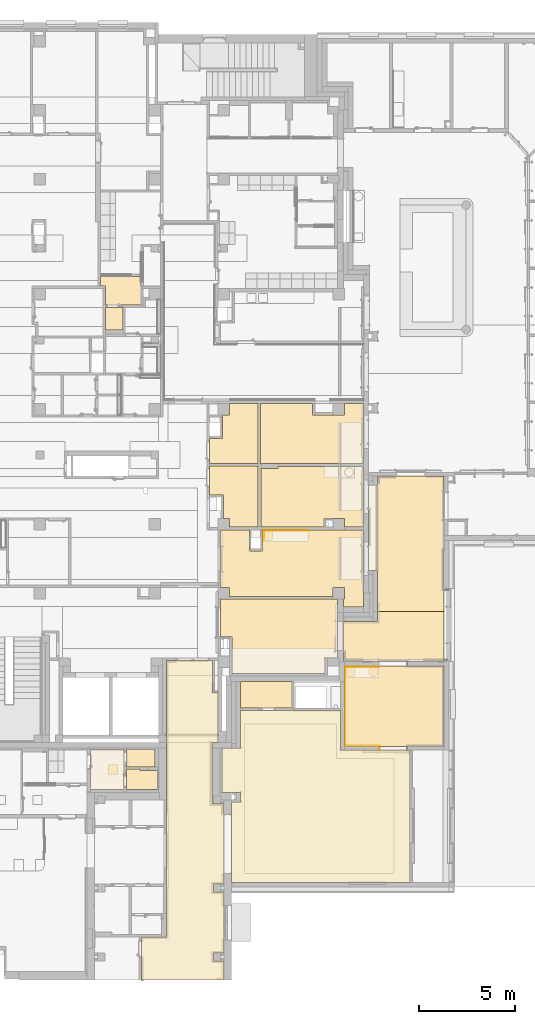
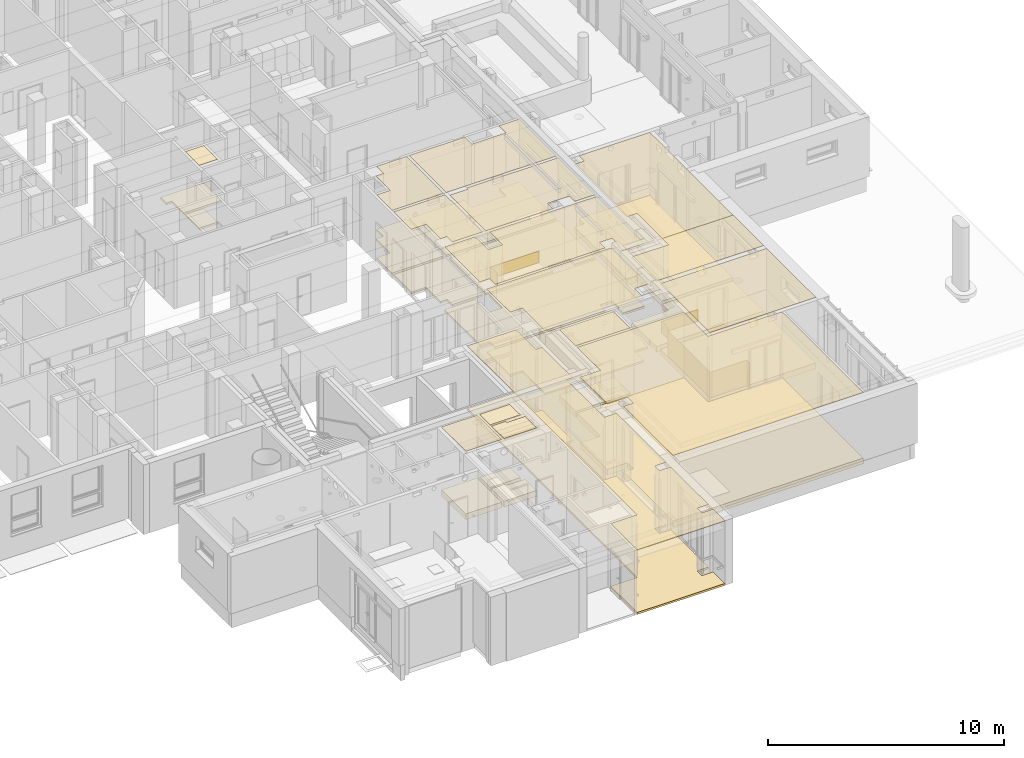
# One storey, part 129 of 140: 36 coverings.
"""IFC4 building model written with IfcOpenShell, lengths in metres."""

import ifcopenshell
import ifcopenshell.guid

model = None  # the IFC model being written
_history = None  # IfcOwnerHistory: only IFC2X3 demands one
_inside = {}  # id of a spatial element -> (the spatial element, [elements in it])
_under = {}  # id of a project, library or spatial element -> (it, [spatial elements below it])
_declared = {}  # id of a project -> (the project, [libraries it declares])
_typed = {}  # id of a type object -> (the type object, [elements of that type])
_made_of = {}  # id of a material, layer set ... -> (it, [elements and type objects made of it])


def new_model(schema):
    """Start an empty IFC model of exactly this schema.

    Asked for "IFC4X3", IfcOpenShell would pick the latest addendum, in which some entities
    have other attributes; the version numbers below select the first issue.
    IFC2X3 requires an IfcOwnerHistory on every rooted entity: one is made here for all.
    """
    global model, _history
    if schema == "IFC4X3":
        model = ifcopenshell.file(schema_version=(4, 3, 0, 0))
    else:
        model = ifcopenshell.file(schema=schema)
    _inside.clear()
    _under.clear()
    _declared.clear()
    _typed.clear()
    _made_of.clear()
    _history = None
    if model.schema == "IFC2X3":
        org = make("IfcOrganization", Name="unknown")
        user = make(
            "IfcPersonAndOrganization",
            ThePerson=make("IfcPerson", FamilyName="unknown"),
            TheOrganization=org,
        )
        app = make(
            "IfcApplication",
            ApplicationDeveloper=org,
            Version="unknown",
            ApplicationFullName="unknown",
            ApplicationIdentifier="unknown",
        )
        _history = make(
            "IfcOwnerHistory",
            OwningUser=user,
            OwningApplication=app,
            ChangeAction="ADDED",
            CreationDate=0,
        )
    return model


def make(cls, **values):
    """One entity of the class cls with the attributes given. An attribute that is None is left unset."""
    return model.create_entity(
        cls, **{name: value for name, value in values.items() if value is not None}
    )


def entity(cls, *values):
    """Any entity or typed value of the class cls, its attributes in the order of the schema. None: left unset."""
    e = model.create_entity(cls)
    for i, value in enumerate(values):
        if value is not None:
            e[i] = value
    return e


def rooted(cls, **values):
    """An entity with a GlobalId (a new one), such as an element, a storey or a relation."""
    return make(cls, GlobalId=ifcopenshell.guid.new(), OwnerHistory=_history, **values)


def si_unit(unit_type, name, prefix=None):
    """IfcSIUnit, for example si_unit("LENGTHUNIT", "METRE", prefix="MILLI")."""
    return make("IfcSIUnit", UnitType=unit_type, Prefix=prefix, Name=name)


def converted_unit(unit_type, name, factor, base, dimensions=None, offset=None):
    """IfcConversionBasedUnit, such as the inch: factor (a typed value) times the base unit."""
    return make(
        "IfcConversionBasedUnit"
        if offset is None
        else "IfcConversionBasedUnitWithOffset",
        ConversionOffset=offset,
        Dimensions=None
        if dimensions is None
        else entity("IfcDimensionalExponents", *dimensions),
        UnitType=unit_type,
        Name=name,
        ConversionFactor=make(
            "IfcMeasureWithUnit", ValueComponent=factor, UnitComponent=base
        ),
    )


def derived_unit(unit_type, elements):
    """IfcDerivedUnit: a product of units, each with its exponent."""
    return make(
        "IfcDerivedUnit",
        Elements=[
            make("IfcDerivedUnitElement", Unit=unit, Exponent=power)
            for unit, power in elements
        ],
        UnitType=unit_type,
    )


def assignment(units):
    """IfcUnitAssignment: the units of a project."""
    return None if units is None else make("IfcUnitAssignment", Units=units)


def point(xyz):
    """IfcCartesianPoint."""
    return None if xyz is None else make("IfcCartesianPoint", Coordinates=xyz)


def direction(xyz):
    """IfcDirection."""
    return None if xyz is None else make("IfcDirection", DirectionRatios=xyz)


def frame(location, z_axis=None, x_axis=None):
    """IfcAxis2Placement3D, a coordinate frame: its origin and axes. An axis left out is left unset."""
    return make(
        "IfcAxis2Placement3D",
        Location=point(location),
        Axis=direction(z_axis),
        RefDirection=direction(x_axis),
    )


def frame_2d(location, x_axis=None):
    """IfcAxis2Placement2D, a coordinate frame in the plane: its origin and x axis."""
    return make(
        "IfcAxis2Placement2D", Location=point(location), RefDirection=direction(x_axis)
    )


def origin():
    """The frame at (0, 0, 0) with its axes left unset."""
    return frame((0.0, 0.0, 0.0))


def origin_with_axes():
    """The frame at (0, 0, 0) with the z axis (0, 0, 1) and the x axis (1, 0, 0) written out."""
    return frame((0.0, 0.0, 0.0), z_axis=(0.0, 0.0, 1.0), x_axis=(1.0, 0.0, 0.0))


def place(relative_to, where):
    """IfcLocalPlacement: puts the frame where relative to a parent placement (None: the world)."""
    return make(
        "IfcLocalPlacement", PlacementRelTo=relative_to, RelativePlacement=where
    )


def context(
    kind, dimensions, precision=None, world=None, true_north=None, identifier=None
):
    """IfcGeometricRepresentationContext, for example the 3D "Model" context."""
    return make(
        "IfcGeometricRepresentationContext",
        ContextIdentifier=identifier,
        ContextType=kind,
        CoordinateSpaceDimension=dimensions,
        Precision=precision,
        WorldCoordinateSystem=world,
        TrueNorth=true_north,
    )


def subcontext(parent, identifier, kind, view, scale=None):
    """IfcGeometricRepresentationSubContext, for example "Body" below "Model"."""
    return make(
        "IfcGeometricRepresentationSubContext",
        ContextIdentifier=identifier,
        ContextType=kind,
        ParentContext=parent,
        TargetScale=scale,
        TargetView=view,
    )


def project(units=None, contexts=None):
    """IfcProject with its units and contexts."""
    return rooted(
        "IfcProject",
        Name="project",
        RepresentationContexts=contexts,
        UnitsInContext=assignment(units),
    )


def spatial(cls, under=None, at=None, **own):
    """A site, building, storey or space (cls), placed at a placement, below another one or the project."""
    s = rooted(cls, ObjectPlacement=at, **own)
    if under is not None:
        _under.setdefault(under.id(), (under, []))[1].append(s)
    return s


def polyline(points):
    """IfcPolyline through the points."""
    return make("IfcPolyline", Points=[point(p) for p in points])


def profile(cls, at=None, kind="AREA", **sizes):
    """A parametric profile (cls). Its sizes go by their IFC names, for example OverallWidth=200.0."""
    return make(cls, ProfileType=kind, Position=at, **sizes)


def rectangle(**sizes):
    """IfcRectangleProfileDef."""
    return profile("IfcRectangleProfileDef", **sizes)


def outline(outer, holes=None, kind="AREA"):
    """IfcArbitraryClosedProfileDef: a profile drawn as a closed curve; with holes, ...WithVoids."""
    if holes is None:
        return make("IfcArbitraryClosedProfileDef", ProfileType=kind, OuterCurve=outer)
    return make(
        "IfcArbitraryProfileDefWithVoids",
        ProfileType=kind,
        OuterCurve=outer,
        InnerCurves=holes,
    )


def extrude(swept, where, along, depth):
    """IfcExtrudedAreaSolid: the profile swept, set in the frame where, extruded along a direction by depth."""
    return make(
        "IfcExtrudedAreaSolid",
        SweptArea=swept,
        Position=where,
        ExtrudedDirection=direction(along),
        Depth=depth,
    )


def shape(context_of_items, identifier, shape_type, items):
    """IfcShapeRepresentation: the items that make up one representation, for example the "Body"."""
    return make(
        "IfcShapeRepresentation",
        ContextOfItems=context_of_items,
        RepresentationIdentifier=identifier,
        RepresentationType=shape_type,
        Items=items,
    )


def material(Name=None, Category=None):
    """IfcMaterial."""
    return make("IfcMaterial", Name=Name, Category=Category)


def layer(
    of_material, thickness, ventilated=None, Name=None, Category=None, Priority=None
):
    """IfcMaterialLayer: one layer of a wall or slab, of a material (None: an air gap)."""
    return make(
        "IfcMaterialLayer",
        Material=of_material,
        LayerThickness=thickness,
        IsVentilated=ventilated,
        Name=Name,
        Category=Category,
        Priority=Priority,
    )


def layer_set(layers, Name=None):
    """IfcMaterialLayerSet."""
    return make("IfcMaterialLayerSet", MaterialLayers=layers, LayerSetName=Name)


def layer_usage(for_layer_set, set_direction, sense, offset, extent=None):
    """IfcMaterialLayerSetUsage: how a layer set lies in its element."""
    return make(
        "IfcMaterialLayerSetUsage",
        ForLayerSet=for_layer_set,
        LayerSetDirection=set_direction,
        DirectionSense=sense,
        OffsetFromReferenceLine=offset,
        ReferenceExtent=extent,
    )


def made_of(thing, what):
    """Note that an element or type object is made of a material, layer set ...; save() writes the relation."""
    if what is not None:
        _made_of.setdefault(what.id(), (what, []))[1].append(thing)
    return thing


def element(
    cls,
    number,
    at=None,
    inside=None,
    cuts=None,
    type_object=None,
    material=None,
    context=None,
    identifier="Body",
    shape_type=None,
    held_by="IfcProductDefinitionShape",
    body=None,
    shapes=None,
    **own,
):
    """One element of the class cls, such as IfcWall. Its Tag is "e" and its number.

    at: its placement. inside: the storey or other place that contains it. cuts: it is an
    opening in that element (IfcRelVoidsElement). A single representation is given by context,
    identifier, shape_type and body (its items); several are given by shapes. held_by: the class
    of the entity that holds the representations. save() writes the other relations.
    """
    e = rooted(cls, Tag="e%d" % number, ObjectPlacement=at, **own)
    if body is not None:
        shapes = [shape(context, identifier, shape_type, body)]
    if shapes is not None:
        e.Representation = make(held_by, Representations=shapes)
    if inside is not None:
        _inside.setdefault(inside.id(), (inside, []))[1].append(e)
    if cuts is not None:
        rooted(
            "IfcRelVoidsElement", RelatingBuildingElement=cuts, RelatedOpeningElement=e
        )
    if type_object is not None:
        _typed.setdefault(type_object.id(), (type_object, []))[1].append(e)
    return made_of(e, material)


def aggregate(whole, parts):
    """IfcRelAggregates: a whole, such as a stair, and the parts it consists of."""
    return rooted("IfcRelAggregates", RelatingObject=whole, RelatedObjects=parts)


def save(model, path):
    """Write the relations noted so far, then the file.

    IfcRelAggregates (storeys below a building ...), IfcRelContainedInSpatialStructure (elements
    in a storey), IfcRelDefinesByType, IfcRelAssociatesMaterial and IfcRelDeclares: one each for
    every whole, place, type object, material and project.
    """
    for whole, parts in _under.values():
        aggregate(whole, parts)
    for where, things in _inside.values():
        rooted(
            "IfcRelContainedInSpatialStructure",
            RelatedElements=things,
            RelatingStructure=where,
        )
    for kind, things in _typed.values():
        rooted("IfcRelDefinesByType", RelatedObjects=things, RelatingType=kind)
    for what, things in _made_of.values():
        rooted("IfcRelAssociatesMaterial", RelatedObjects=things, RelatingMaterial=what)
    for by, libraries in _declared.values():
        rooted("IfcRelDeclares", RelatingContext=by, RelatedDefinitions=libraries)
    model.write(path)


model = new_model("IFC4")

# Units and contexts
model_context = context("Model", 3, precision=1e-05, world=origin())
body_context = subcontext(model_context, "Body", "Model", "MODEL_VIEW")
ifc_project = project(units=[si_unit("LENGTHUNIT", "METRE"), si_unit("AREAUNIT", "SQUARE_METRE"), si_unit("VOLUMEUNIT", "CUBIC_METRE"), si_unit("MASSUNIT", "GRAM", prefix="KILO"), converted_unit("PLANEANGLEUNIT", "DEGREE", entity("IfcPlaneAngleMeasure", 0.0174532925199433), si_unit("PLANEANGLEUNIT", "RADIAN"), dimensions=[0, 0, 0, 0, 0, 0, 0]), derived_unit("THERMALTRANSMITTANCEUNIT", [(si_unit("POWERUNIT", "WATT"), 1), (si_unit("THERMODYNAMICTEMPERATUREUNIT", "KELVIN"), -1), (si_unit("LENGTHUNIT", "METRE"), -2)]), derived_unit("VOLUMETRICFLOWRATEUNIT", [(si_unit("LENGTHUNIT", "METRE"), 3), (converted_unit("TIMEUNIT", "hour", entity("IfcTimeMeasure", 3600.0), si_unit("TIMEUNIT", "SECOND"), dimensions=[0, 0, 1, 0, 0, 0, 0]), -1), (si_unit("LENGTHUNIT", "METRE"), -1)])], contexts=[model_context])

# Site, building, storey
site_placement = place(None, origin())
site = spatial("IfcSite", under=ifc_project, at=site_placement, Name="3. ASŘ", CompositionType="ELEMENT")
building_placement = place(site_placement, origin())
building = spatial("IfcBuilding", under=site, at=building_placement, Name="Pavilon C", CompositionType="ELEMENT")
storey_placement = place(building_placement, origin())
storey = spatial("IfcBuildingStorey", under=building, at=storey_placement, Name="Půdorys 1.NP", CompositionType="ELEMENT", Elevation=0.0)

# Coverings
ifc_material_1 = material(Name="KERAMICKÝ OBKLAD")
ifc_layer_1 = layer(ifc_material_1, 0.015)
ifc_layer_set_1 = layer_set([ifc_layer_1])
ifc_layer_usage_1 = layer_usage(ifc_layer_set_1, "AXIS3", "POSITIVE", 0.0)
covering_1_placement = place(storey_placement, frame((46.010004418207, 6.30022531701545, 0.85)))
element("IfcCovering", 1, at=covering_1_placement, inside=storey, material=ifc_layer_usage_1, PredefinedType="CLADDING", context=body_context, shape_type="SweptSolid", body=[
    extrude(rectangle(XDim=0.6, YDim=0.569774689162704, at=frame_2d((-0.284887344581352, -0.3), x_axis=(0.0, -1.0))), frame((8.39065720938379e-05, 0.0, 0.0), z_axis=(0.999999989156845, 0.00014726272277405, 5.19607976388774e-21), x_axis=(0.00014726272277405, -0.999999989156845, 0.0)), (0.0, 0.0, 1.0), 0.015),
    extrude(rectangle(XDim=0.6, YDim=2.37003967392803, at=frame_2d((-1.18501983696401, -0.3), x_axis=(0.0, -1.0))), frame((0.0, 0.569774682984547, 0.0), z_axis=(-3.83746614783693e-16, -1.0, 0.0), x_axis=(-1.0, 3.83746614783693e-16, 0.0)), (0.0, 0.0, 1.0), 0.015),
])
ifc_material_2 = material(Name="KERAMICKÝ OBKLAD")
ifc_layer_2 = layer(ifc_material_2, 0.015)
ifc_layer_set_2 = layer_set([ifc_layer_2])
ifc_layer_usage_2 = layer_usage(ifc_layer_set_2, "AXIS3", "POSITIVE", 0.0)
covering_2_placement = place(storey_placement, frame((50.28, -0.82, 0.85)))
element("IfcCovering", 2, at=covering_2_placement, inside=storey, material=ifc_layer_usage_2, PredefinedType="CLADDING", context=body_context, shape_type="SweptSolid", body=[
    extrude(rectangle(XDim=0.6, YDim=0.57, at=frame_2d((-0.285, -0.3), x_axis=(0.0, -1.0))), frame((0.0, 0.0, 0.0), z_axis=(1.0, 0.0, 0.0), x_axis=(0.0, -1.0, 0.0)), (0.0, 0.0, 1.0), 0.015),
    extrude(rectangle(XDim=0.6, YDim=1.77, at=frame_2d((-0.885, -0.3), x_axis=(0.0, -1.0))), frame((0.0, 0.57, 0.0), z_axis=(-1.28459703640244e-16, -1.0, 0.0), x_axis=(-1.0, 1.28459703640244e-16, 0.0)), (0.0, 0.0, 1.0), 0.015),
])
ifc_material_3 = material(Name="ACROVINYLOVÝ OBKLAD")
ifc_layer_3 = layer(ifc_material_3, 0.005)
ifc_layer_set_3 = layer_set([ifc_layer_3])
ifc_layer_usage_3 = layer_usage(ifc_layer_set_3, "AXIS3", "POSITIVE", 0.0)
covering_3_placement = place(storey_placement, frame((50.28, -4.6, 0.0)))
element("IfcCovering", 3, at=covering_3_placement, inside=storey, material=ifc_layer_usage_3, PredefinedType="CLADDING", context=body_context, shape_type="SweptSolid", body=[
    extrude(rectangle(XDim=1.3, YDim=0.23, at=frame_2d((-0.115, -0.65), x_axis=(0.0, -1.0))), frame((1.8, 0.0, 0.0), z_axis=(1.0, 0.0, 0.0), x_axis=(0.0, -1.0, 0.0)), (0.0, 0.0, 1.0), 0.005),
    extrude(rectangle(XDim=1.3, YDim=0.400000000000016, at=frame_2d((-0.200000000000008, -0.65), x_axis=(0.0, -1.0))), frame((0.0, 0.230000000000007, 0.0), z_axis=(1.0, 0.0, 0.0), x_axis=(0.0, -1.0, 0.0)), (0.0, 0.0, 1.0), 0.005),
    extrude(rectangle(XDim=1.3, YDim=3.14999999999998, at=frame_2d((-1.57499999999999, -0.65), x_axis=(0.0, -1.0))), frame((0.0, 0.630000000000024, 0.0), z_axis=(1.0, 0.0, 0.0), x_axis=(0.0, -1.0, 0.0)), (0.0, 0.0, 1.0), 0.005),
    extrude(rectangle(XDim=1.3, YDim=1.8, at=frame_2d((-0.9, -0.65), x_axis=(0.0, -1.0))), frame((1.8, 0.23, 0.0), z_axis=(4.04219867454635e-15, 1.0, 0.0), x_axis=(1.0, -4.04219867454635e-15, 0.0)), (0.0, 0.0, 1.0), 0.005),
])

# Space
space_1_placement = place(storey_placement, frame((39.65, -16.6, -0.1)))
space_1 = spatial("IfcSpace", under=storey, at=space_1_placement, Name="1.01", CompositionType="ELEMENT")

# Coverings
ifc_material_4 = material()
ifc_layer_4 = layer(ifc_material_4, 0.095)
ifc_material_5 = material(Name="PŘÍRODNÍ LINOLEUM")
ifc_layer_5 = layer(ifc_material_5, 0.005)
ifc_layer_set_4 = layer_set([ifc_layer_4, ifc_layer_5])
ifc_layer_usage_4 = layer_usage(ifc_layer_set_4, "AXIS3", "POSITIVE", 0.0)
covering_4_placement = place(space_1_placement, origin())
element("IfcCovering", 4, at=covering_4_placement, inside=space_1, material=ifc_layer_usage_4, PredefinedType="FLOORING", context=body_context, shape_type="SweptSolid", body=[
    extrude(outline(polyline([(3.7, 15.0), (3.7, 16.675), (1.3, 16.675), (1.3, 2.24999999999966), (0.0, 2.24999999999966), (0.0, 0.0), (4.3, 0.0), (4.3, 0.999999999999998), (3.75, 0.999999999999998), (3.75, 1.4), (4.3, 1.4), (4.3, 4.6), (3.75, 4.6), (3.75, 5.0), (4.3, 5.0), (4.3, 9.2), (3.7, 9.2), (3.7, 12.4), (3.99999999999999, 12.4), (3.99999999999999, 15.0), (3.7, 15.0)])), origin_with_axes(), (0.0, 0.0, 1.0), 0.1),
])
ifc_material_6 = material(Name="RASTR 1")
ifc_layer_6 = layer(ifc_material_6, 0.03)
ifc_layer_set_5 = layer_set([ifc_layer_6])
ifc_layer_usage_5 = layer_usage(ifc_layer_set_5, "AXIS3", "POSITIVE", 0.0)
covering_5_placement = place(space_1_placement, frame((0.0, 0.0, 3.35)))
element("IfcCovering", 5, at=covering_5_placement, inside=space_1, material=ifc_layer_usage_5, PredefinedType="CEILING", context=body_context, shape_type="SweptSolid", body=[
    extrude(outline(polyline([(3.7, 0.0), (3.7, 1.675), (3.99999999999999, 1.675), (3.99999999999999, 4.27499999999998), (3.7, 4.27499999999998), (3.7, 7.47499999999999), (4.3, 7.47499999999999), (4.3, 11.675), (3.75, 11.675), (3.75, 12.075), (4.3, 12.075), (4.3, 15.275), (3.75, 15.275), (3.75, 15.675), (4.3, 15.675), (4.3, 16.675), (0.0, 16.675), (0.0, 14.4250000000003), (1.3, 14.4250000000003), (1.3, 0.0), (3.7, 0.0)])), frame((0.0, 16.675, 0.0), z_axis=(0.0, 0.0, -1.0), x_axis=(1.0, 0.0, 0.0)), (0.0, 0.0, 1.0), 0.03),
])

# Space
space_2_placement = place(storey_placement, frame((38.875, -5.47499998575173, -0.3)))
space_2 = spatial("IfcSpace", under=storey, at=space_2_placement, Name="K1.14a", CompositionType="ELEMENT")

# Coverings
ifc_material_7 = material()
ifc_layer_7 = layer(ifc_material_7, 0.285)
ifc_material_8 = material(Name="KERAMICKÁ DLAŽBA")
ifc_layer_8 = layer(ifc_material_8, 0.015)
ifc_layer_set_6 = layer_set([ifc_layer_7, ifc_layer_8])
ifc_layer_usage_6 = layer_usage(ifc_layer_set_6, "AXIS3", "POSITIVE", 0.0)
covering_6_placement = place(space_2_placement, origin())
element("IfcCovering", 6, at=covering_6_placement, inside=space_2, material=ifc_layer_usage_6, PredefinedType="FLOORING", context=body_context, shape_type="SweptSolid", body=[
    extrude(rectangle(XDim=1.47500000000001, YDim=0.89999998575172, at=frame_2d((-0.737500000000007, -0.44999999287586), x_axis=(-1.0, 0.0))), frame((1.47500000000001, 0.89999998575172, 0.0), z_axis=(0.0, 0.0, 1.0), x_axis=(1.0, 0.0, 0.0)), (0.0, 0.0, 1.0), 0.3),
])
ifc_material_9 = material(Name="RASTR 2")
ifc_layer_9 = layer(ifc_material_9, 0.03)
ifc_layer_set_7 = layer_set([ifc_layer_9])
ifc_layer_usage_7 = layer_usage(ifc_layer_set_7, "AXIS3", "POSITIVE", 0.0)
covering_7_placement = place(space_2_placement, frame((0.0, 0.0, 3.55)))
element("IfcCovering", 7, at=covering_7_placement, inside=space_2, material=ifc_layer_usage_7, PredefinedType="CEILING", context=body_context, shape_type="SweptSolid", body=[
    extrude(rectangle(XDim=1.47500000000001, YDim=0.89999998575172, at=frame_2d((0.7375, 0.44999999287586), x_axis=(1.0, 0.0))), frame((7.27595761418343e-15, 0.89999998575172, 0.0), z_axis=(0.0, 0.0, -1.0), x_axis=(1.0, 0.0, 0.0)), (0.0, 0.0, 1.0), 0.03),
])

# Space
space_3_placement = place(storey_placement, frame((37.0, -6.65, -0.3)))
space_3 = spatial("IfcSpace", under=storey, at=space_3_placement, Name="K1.14", CompositionType="ELEMENT")

# Coverings
ifc_material_10 = material()
ifc_layer_10 = layer(ifc_material_10, 0.285)
ifc_material_11 = material(Name="KERAMICKÁ DLAŽBA")
ifc_layer_11 = layer(ifc_material_11, 0.015)
ifc_layer_set_8 = layer_set([ifc_layer_10, ifc_layer_11])
ifc_layer_usage_8 = layer_usage(ifc_layer_set_8, "AXIS3", "POSITIVE", 0.0)
covering_8_placement = place(space_3_placement, origin())
element("IfcCovering", 8, at=covering_8_placement, inside=space_3, material=ifc_layer_usage_8, PredefinedType="FLOORING", context=body_context, shape_type="SweptSolid", body=[
    extrude(rectangle(XDim=1.75, YDim=2.075, at=frame_2d((-0.875, -1.0375), x_axis=(-1.0, 0.0))), frame((1.75, 2.075, 0.0), z_axis=(0.0, 0.0, 1.0), x_axis=(1.0, 0.0, 0.0)), (0.0, 0.0, 1.0), 0.3),
])
ifc_material_12 = material(Name="RASTR 2")
ifc_layer_12 = layer(ifc_material_12, 0.03)
ifc_layer_set_9 = layer_set([ifc_layer_12])
ifc_layer_usage_9 = layer_usage(ifc_layer_set_9, "AXIS3", "POSITIVE", 0.0)
covering_9_placement = place(space_3_placement, frame((0.0, 0.0, 3.55)))
element("IfcCovering", 9, at=covering_9_placement, inside=space_3, material=ifc_layer_usage_9, PredefinedType="CEILING", context=body_context, shape_type="SweptSolid", body=[
    extrude(rectangle(XDim=1.75, YDim=2.075, at=frame_2d((0.875, 1.0375), x_axis=(1.0, 0.0))), frame((0.0, 2.075, 0.0), z_axis=(0.0, 0.0, -1.0), x_axis=(1.0, 0.0, 0.0)), (0.0, 0.0, 1.0), 0.03),
])

# Space
space_4_placement = place(storey_placement, frame((38.875, -6.65, -0.3)))
space_4 = spatial("IfcSpace", under=storey, at=space_4_placement, Name="K1.14b", CompositionType="ELEMENT")

# Coverings
ifc_material_13 = material()
ifc_layer_13 = layer(ifc_material_13, 0.285)
ifc_material_14 = material(Name="KERAMICKÁ DLAŽBA")
ifc_layer_14 = layer(ifc_material_14, 0.015)
ifc_layer_set_10 = layer_set([ifc_layer_13, ifc_layer_14])
ifc_layer_usage_10 = layer_usage(ifc_layer_set_10, "AXIS3", "POSITIVE", 0.0)
covering_10_placement = place(space_4_placement, frame((7.27595761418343e-15, 0.0, 0.0)))
element("IfcCovering", 10, at=covering_10_placement, inside=space_4, material=ifc_layer_usage_10, PredefinedType="FLOORING", context=body_context, shape_type="SweptSolid", body=[
    extrude(outline(polyline([(0.699997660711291, 1.075), (0.0, 1.075), (0.0, 0.0), (1.60000000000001, 0.0), (1.60000000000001, 0.974999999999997), (0.699997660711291, 0.974999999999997), (0.699997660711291, 1.075)])), frame((-7.27595761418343e-15, 0.0, 0.0), z_axis=(0.0, 0.0, 1.0), x_axis=(1.0, 0.0, 0.0)), (0.0, 0.0, 1.0), 0.3),
])
ifc_material_15 = material(Name="RASTR 4")
ifc_layer_15 = layer(ifc_material_15, 0.03)
ifc_layer_set_11 = layer_set([ifc_layer_15])
ifc_layer_usage_11 = layer_usage(ifc_layer_set_11, "AXIS3", "POSITIVE", 0.0)
covering_11_placement = place(space_4_placement, frame((7.27595761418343e-15, 0.0, 3.55)))
element("IfcCovering", 11, at=covering_11_placement, inside=space_4, material=ifc_layer_usage_11, PredefinedType="CEILING", context=body_context, shape_type="SweptSolid", body=[
    extrude(outline(polyline([(0.0, 0.0), (0.699997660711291, 0.0), (0.699997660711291, 0.1), (1.60000000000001, 0.1), (1.60000000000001, 1.075), (0.0, 1.075), (0.0, 0.0)])), frame((-7.27595761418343e-15, 1.075, 0.0), z_axis=(0.0, 0.0, -1.0), x_axis=(1.0, 0.0, 0.0)), (0.0, 0.0, 1.0), 0.03),
])

# Space
space_5_placement = place(storey_placement, frame((43.85, -11.5, -0.3)))
space_5 = spatial("IfcSpace", under=storey, at=space_5_placement, Name="1.01b", CompositionType="ELEMENT")

# Coverings
ifc_material_16 = material()
ifc_layer_16 = layer(ifc_material_16, 0.295)
ifc_material_17 = material(Name="PŘÍRODNÍ LINOLEUM")
ifc_layer_17 = layer(ifc_material_17, 0.005)
ifc_layer_set_12 = layer_set([ifc_layer_16, ifc_layer_17])
ifc_layer_usage_12 = layer_usage(ifc_layer_set_12, "AXIS3", "POSITIVE", 0.0)
covering_12_placement = place(space_5_placement, origin())
element("IfcCovering", 12, at=covering_12_placement, inside=space_5, material=ifc_layer_usage_12, PredefinedType="FLOORING", context=body_context, shape_type="SweptSolid", body=[
    extrude(outline(polyline([(0.5, 4.20000000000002), (0.499999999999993, 1.2732925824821e-14), (9.82999999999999, 0.0), (9.82999999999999, 6.9), (6.2, 6.90000000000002), (6.2, 8.95999999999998), (0.98, 8.95999999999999), (0.98, 7.00000000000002), (0.0, 7.00000000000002), (0.0, 4.70000000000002), (0.98, 4.70000000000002), (0.98, 4.20000000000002), (0.5, 4.20000000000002)])), origin_with_axes(), (0.0, 0.0, 1.0), 0.3),
])
ifc_material_18 = material(Name="RASTR 1/SDK PODHLED")
ifc_layer_18 = layer(ifc_material_18, 0.03)
ifc_layer_set_13 = layer_set([ifc_layer_18])
ifc_layer_usage_13 = layer_usage(ifc_layer_set_13, "AXIS3", "POSITIVE", 0.0)
covering_13_placement = place(space_5_placement, frame((0.0, 0.0, 3.7)))
element("IfcCovering", 13, at=covering_13_placement, inside=space_5, material=ifc_layer_usage_13, PredefinedType="CEILING", context=body_context, shape_type="SweptSolid", body=[
    extrude(outline(polyline([(0.499999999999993, 8.95999999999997), (0.5, 4.75999999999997), (0.98, 4.75999999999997), (0.98, 4.25999999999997), (0.0, 4.25999999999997), (0.0, 1.95999999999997), (0.98, 1.95999999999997), (0.98, 0.0), (6.2, 9.09494701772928e-16), (6.2, 2.05999999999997), (9.82999999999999, 2.05999999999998), (9.82999999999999, 8.95999999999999), (0.499999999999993, 8.95999999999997)])), frame((0.0, 8.95999999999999, 0.0), z_axis=(0.0, 0.0, -1.0), x_axis=(1.0, 0.0, 0.0)), (0.0, 0.0, 1.0), 0.03),
])

# Space
space_6_placement = place(storey_placement, frame((50.25, -4.4, -0.3)))
space_6 = spatial("IfcSpace", under=storey, at=space_6_placement, Name="1.02", CompositionType="ELEMENT")

# Coverings
ifc_material_19 = material()
ifc_layer_19 = layer(ifc_material_19, 0.295)
ifc_material_20 = material(Name="ELEKTROSTATICKÝ VINYL")
ifc_layer_20 = layer(ifc_material_20, 0.005)
ifc_layer_set_14 = layer_set([ifc_layer_19, ifc_layer_20])
ifc_layer_usage_14 = layer_usage(ifc_layer_set_14, "AXIS3", "POSITIVE", 0.0)
covering_14_placement = place(space_6_placement, origin())
element("IfcCovering", 14, at=covering_14_placement, inside=space_6, material=ifc_layer_usage_14, PredefinedType="FLOORING", context=body_context, shape_type="SweptSolid", body=[
    extrude(rectangle(XDim=4.18000000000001, YDim=5.19999999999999, at=frame_2d((2.59999999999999, -2.09000000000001), x_axis=(0.0, -1.0))), frame((0.0, 4.18000000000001, 0.0), z_axis=(0.0, 0.0, 1.0), x_axis=(1.0, 0.0, 0.0)), (0.0, 0.0, 1.0), 0.3),
])
ifc_material_21 = material(Name="RASTR 3")
ifc_layer_21 = layer(ifc_material_21, 0.03)
ifc_layer_set_15 = layer_set([ifc_layer_21])
ifc_layer_usage_15 = layer_usage(ifc_layer_set_15, "AXIS3", "POSITIVE", 0.0)
covering_15_placement = place(space_6_placement, frame((0.0, 0.0, 3.7)))
element("IfcCovering", 15, at=covering_15_placement, inside=space_6, material=ifc_layer_usage_15, PredefinedType="CEILING", context=body_context, shape_type="SweptSolid", body=[
    extrude(rectangle(XDim=4.18000000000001, YDim=5.19999999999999, at=frame_2d((2.59999999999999, -2.09000000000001), x_axis=(0.0, -1.0))), frame((0.0, 0.0, 0.0), z_axis=(0.0, 0.0, -1.0), x_axis=(1.0, 0.0, 0.0)), (0.0, 0.0, 1.0), 0.03),
])

# Space
space_7_placement = place(storey_placement, frame((51.5, 2.63, -0.15)))
space_7 = spatial("IfcSpace", under=storey, at=space_7_placement, Name="1.03", CompositionType="ELEMENT")

# Coverings
ifc_material_22 = material()
ifc_layer_22 = layer(ifc_material_22, 0.295)
ifc_material_23 = material(Name="ELEKTROSTATICKÝ VINYL")
ifc_layer_23 = layer(ifc_material_23, 0.005)
ifc_layer_set_16 = layer_set([ifc_layer_22, ifc_layer_23])
ifc_layer_usage_16 = layer_usage(ifc_layer_set_16, "AXIS3", "POSITIVE", 0.0)
covering_16_placement = place(space_7_placement, origin())
element("IfcCovering", 16, at=covering_16_placement, inside=space_7, material=ifc_layer_usage_16, Name="I.P9", PredefinedType="FLOORING", context=body_context, shape_type="SweptSolid", body=[
    extrude(outline(polyline([(3.94999999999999, 7.06999999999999), (0.48, 7.06999999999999), (0.48, 6.61999999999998), (0.0, 6.61999999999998), (0.0, 2.14499999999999), (0.48, 2.14499999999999), (0.48, 0.0), (3.94999999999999, 0.0), (3.94999999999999, 7.06999999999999)])), origin_with_axes(), (0.0, 0.0, 1.0), 0.3),
])
ifc_material_24 = material(Name="RASTR 1")
ifc_layer_24 = layer(ifc_material_24, 0.03)
ifc_layer_set_17 = layer_set([ifc_layer_24])
ifc_layer_usage_17 = layer_usage(ifc_layer_set_17, "AXIS3", "POSITIVE", 0.0)
covering_17_placement = place(space_7_placement, frame((0.0, 0.0, 3.55)))
element("IfcCovering", 17, at=covering_17_placement, inside=space_7, material=ifc_layer_usage_17, PredefinedType="CEILING", context=body_context, shape_type="SweptSolid", body=[
    extrude(outline(polyline([(0.48, 0.0), (3.94999999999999, 0.0), (3.94999999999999, 7.06999999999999), (0.48, 7.06999999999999), (0.48, 4.92499999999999), (0.0, 4.92499999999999), (0.0, 0.450000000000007), (0.48, 0.450000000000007), (0.48, 0.0)])), frame((0.0, 7.06999999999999, 0.0), z_axis=(0.0, 0.0, -1.0), x_axis=(1.0, 0.0, 0.0)), (0.0, 0.0, 1.0), 0.03),
])

# Space
space_8_placement = place(storey_placement, frame((43.775, -0.600000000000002, -0.1)))
space_8 = spatial("IfcSpace", under=storey, at=space_8_placement, Name="1.04", CompositionType="ELEMENT")

# Coverings
ifc_material_25 = material()
ifc_layer_25 = layer(ifc_material_25, 0.095)
ifc_material_26 = material(Name="PŘÍRODNÍ LINOLEUM")
ifc_layer_26 = layer(ifc_material_26, 0.005)
ifc_layer_set_18 = layer_set([ifc_layer_25, ifc_layer_26])
ifc_layer_usage_18 = layer_usage(ifc_layer_set_18, "AXIS3", "POSITIVE", 0.0)
covering_18_placement = place(space_8_placement, origin())
element("IfcCovering", 18, at=covering_18_placement, inside=space_8, material=ifc_layer_usage_18, PredefinedType="FLOORING", context=body_context, shape_type="SweptSolid", body=[
    extrude(outline(polyline([(6.105, 3.9), (0.0, 3.9), (0.0, 1.92499999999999), (0.6, 1.92499999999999), (0.6, 0.0), (5.45, 0.0), (5.45, 0.799999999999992), (6.105, 0.799999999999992), (6.105, 3.9)])), origin_with_axes(), (0.0, 0.0, 1.0), 0.1),
])
ifc_material_27 = material(Name="RASTR 1")
ifc_layer_27 = layer(ifc_material_27, 0.03)
ifc_layer_set_19 = layer_set([ifc_layer_27])
ifc_layer_usage_19 = layer_usage(ifc_layer_set_19, "AXIS3", "POSITIVE", 0.0)
covering_19_placement = place(space_8_placement, frame((0.0, 0.0, 3.35)))
element("IfcCovering", 19, at=covering_19_placement, inside=space_8, material=ifc_layer_usage_19, PredefinedType="CEILING", context=body_context, shape_type="SweptSolid", body=[
    extrude(outline(polyline([(0.0, 9.09494701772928e-16), (6.105, 0.0), (6.105, 3.1), (5.45, 3.1), (5.45, 3.9), (0.6, 3.9), (0.6, 1.975), (0.0, 1.975), (0.0, 9.09494701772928e-16)])), frame((0.0, 3.9, 0.0), z_axis=(0.0, 0.0, -1.0), x_axis=(1.0, 0.0, 0.0)), (0.0, 0.0, 1.0), 0.03),
])

# Space
space_9_placement = place(storey_placement, frame((43.775, 2.88, -0.1)))
space_9 = spatial("IfcSpace", under=storey, at=space_9_placement, Name="1.05", CompositionType="ELEMENT")

# Coverings
ifc_material_28 = material()
ifc_layer_28 = layer(ifc_material_28, 0.095)
ifc_material_29 = material(Name="ELEKTROSTATICKÝ VINYL")
ifc_layer_29 = layer(ifc_material_29, 0.005)
ifc_layer_set_20 = layer_set([ifc_layer_28, ifc_layer_29])
ifc_layer_usage_20 = layer_usage(ifc_layer_set_20, "AXIS3", "POSITIVE", 0.0)
covering_20_placement = place(space_9_placement, origin())
element("IfcCovering", 20, at=covering_20_placement, inside=space_9, material=ifc_layer_usage_20, PredefinedType="FLOORING", context=body_context, shape_type="SweptSolid", body=[
    extrude(outline(polyline([(2.20500000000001, 2.92), (1.50500000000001, 2.92), (1.50500000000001, 4.02), (0.0, 4.02), (0.0, 1.02), (0.475000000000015, 1.02), (0.475000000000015, 0.544999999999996), (5.87500000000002, 0.544999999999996), (5.87500000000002, 1.02), (6.47500000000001, 1.02), (6.47500000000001, 0.419999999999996), (6.42500000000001, 0.419999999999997), (6.42500000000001, 0.0), (7.47500000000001, 0.0), (7.47500000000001, 4.02), (2.20500000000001, 4.02), (2.20500000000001, 2.92)])), origin_with_axes(), (0.0, 0.0, 1.0), 0.1),
])
ifc_material_30 = material(Name="RASTR 3")
ifc_layer_30 = layer(ifc_material_30, 0.03)
ifc_layer_set_21 = layer_set([ifc_layer_30])
ifc_layer_usage_21 = layer_usage(ifc_layer_set_21, "AXIS3", "POSITIVE", 0.0)
covering_21_placement = place(space_9_placement, frame((0.0, 0.0, 3.35)))
element("IfcCovering", 21, at=covering_21_placement, inside=space_9, material=ifc_layer_usage_21, PredefinedType="CEILING", context=body_context, shape_type="SweptSolid", body=[
    extrude(outline(polyline([(1.50500000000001, 1.1), (2.20500000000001, 1.1), (2.20500000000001, 0.0), (7.47500000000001, 0.0), (7.47500000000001, 4.02), (6.42500000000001, 4.02), (6.42500000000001, 3.6), (6.47500000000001, 3.6), (6.47500000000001, 3.0), (5.87500000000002, 3.0), (5.87500000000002, 3.475), (0.475000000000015, 3.475), (0.475000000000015, 3.0), (0.0, 3.0), (0.0, 0.0), (1.50500000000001, 0.0), (1.50500000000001, 1.1)])), frame((0.0, 4.02, 0.0), z_axis=(0.0, 0.0, -1.0), x_axis=(1.0, 0.0, 0.0)), (0.0, 0.0, 1.0), 0.03),
])

# Space
space_10_placement = place(storey_placement, frame((45.88, 7.04999999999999, -0.1)))
space_10 = spatial("IfcSpace", under=storey, at=space_10_placement, Name="1.06", CompositionType="ELEMENT")

# Coverings
ifc_material_31 = material()
ifc_layer_31 = layer(ifc_material_31, 0.085)
ifc_material_32 = material(Name="KERAMICKÁ DLAŽBA")
ifc_layer_32 = layer(ifc_material_32, 0.015)
ifc_layer_set_22 = layer_set([ifc_layer_31, ifc_layer_32])
ifc_layer_usage_22 = layer_usage(ifc_layer_set_22, "AXIS3", "POSITIVE", 0.0)
covering_22_placement = place(space_10_placement, origin())
element("IfcCovering", 22, at=covering_22_placement, inside=space_10, material=ifc_layer_usage_22, PredefinedType="FLOORING", context=body_context, shape_type="SweptSolid", body=[
    extrude(outline(polyline([(0.9, 3.04999999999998), (0.0, 3.04999999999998), (0.0, 0.0), (3.295, 0.0), (3.295, 0.450000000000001), (4.37, 0.450000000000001), (4.37, 9.09494701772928e-16), (5.37, 9.09494701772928e-16), (5.37, 3.14999999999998), (0.9, 3.14999999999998), (0.9, 3.04999999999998)])), origin_with_axes(), (0.0, 0.0, 1.0), 0.1),
])
ifc_material_33 = material(Name="RASTR 4")
ifc_layer_33 = layer(ifc_material_33, 0.03)
ifc_layer_set_23 = layer_set([ifc_layer_33])
ifc_layer_usage_23 = layer_usage(ifc_layer_set_23, "AXIS3", "POSITIVE", 0.0)
covering_23_placement = place(space_10_placement, frame((0.0, 0.0, 3.35)))
element("IfcCovering", 23, at=covering_23_placement, inside=space_10, material=ifc_layer_usage_23, PredefinedType="CEILING", context=body_context, shape_type="SweptSolid", body=[
    extrude(outline(polyline([(0.0, 0.1), (0.9, 0.1), (0.9, 0.0), (5.37, 0.0), (5.37, 3.14999999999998), (4.37, 3.14999999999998), (4.37, 2.69999999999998), (3.295, 2.69999999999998), (3.295, 3.14999999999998), (0.0, 3.14999999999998), (0.0, 0.1)])), frame((0.0, 3.14999999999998, 0.0), z_axis=(0.0, 0.0, -1.0), x_axis=(1.0, 0.0, 0.0)), (0.0, 0.0, 1.0), 0.03),
])

# Space
space_11_placement = place(storey_placement, frame((45.855, 10.35, -0.1)))
space_11 = spatial("IfcSpace", under=storey, at=space_11_placement, Name="1.07", CompositionType="ELEMENT")

# Coverings
ifc_material_34 = material()
ifc_layer_34 = layer(ifc_material_34, 0.095)
ifc_material_35 = material(Name="PŘÍRODNÍ LINOLEUM")
ifc_layer_35 = layer(ifc_material_35, 0.005)
ifc_layer_set_24 = layer_set([ifc_layer_34, ifc_layer_35])
ifc_layer_usage_24 = layer_usage(ifc_layer_set_24, "AXIS3", "POSITIVE", 0.0)
covering_24_placement = place(space_11_placement, origin())
element("IfcCovering", 24, at=covering_24_placement, inside=space_11, material=ifc_layer_usage_24, PredefinedType="FLOORING", context=body_context, shape_type="SweptSolid", body=[
    extrude(outline(polyline([(0.0, 3.15000000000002), (0.0, 0.0), (5.395, 0.0), (5.395, 3.15000000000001), (4.395, 3.15000000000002), (4.395, 2.55000000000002), (2.72, 2.55000000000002), (2.72, 3.15000000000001), (0.0, 3.15000000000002)])), origin_with_axes(), (0.0, 0.0, 1.0), 0.1),
])
ifc_material_36 = material(Name="RASTR 2")
ifc_layer_36 = layer(ifc_material_36, 0.03)
ifc_layer_set_25 = layer_set([ifc_layer_36])
ifc_layer_usage_25 = layer_usage(ifc_layer_set_25, "AXIS3", "POSITIVE", 0.0)
covering_25_placement = place(space_11_placement, frame((0.0, 0.0, 3.35)))
element("IfcCovering", 25, at=covering_25_placement, inside=space_11, material=ifc_layer_usage_25, PredefinedType="CEILING", context=body_context, shape_type="SweptSolid", body=[
    extrude(outline(polyline([(0.0, 3.15000000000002), (0.0, 0.0), (2.72, 5.45696821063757e-15), (2.72, 0.600000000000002), (4.395, 0.600000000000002), (4.395, 1.81898940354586e-15), (5.395, 7.27595761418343e-15), (5.395, 3.15000000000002), (0.0, 3.15000000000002)])), frame((0.0, 3.15000000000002, 0.0), z_axis=(0.0, 0.0, -1.0), x_axis=(1.0, 0.0, 0.0)), (0.0, 0.0, 1.0), 0.03),
])

# Space
space_12_placement = place(storey_placement, frame((37.5, 18.625, -0.1)))
space_12 = spatial("IfcSpace", under=storey, at=space_12_placement, Name="1.26", CompositionType="ELEMENT")

# Covering
ifc_material_37 = material()
ifc_layer_37 = layer(ifc_material_37, 0.085)
ifc_material_38 = material(Name="KERAMICKÁ DLAŽBA")
ifc_layer_38 = layer(ifc_material_38, 0.015)
ifc_layer_set_26 = layer_set([ifc_layer_37, ifc_layer_38])
ifc_layer_usage_26 = layer_usage(ifc_layer_set_26, "AXIS3", "POSITIVE", 0.0)
covering_26_placement = place(space_12_placement, origin())
element("IfcCovering", 26, at=covering_26_placement, inside=space_12, material=ifc_layer_usage_26, PredefinedType="FLOORING", context=body_context, shape_type="SweptSolid", body=[
    extrude(outline(polyline([(0.0, 1.5), (0.0, 1.0), (0.275, 1.0), (0.275, 0.0), (2.125, 0.0), (2.125, 1.5), (0.0, 1.5)])), origin_with_axes(), (0.0, 0.0, 1.0), 0.1),
])

# Space
space_13_placement = place(storey_placement, frame((37.775, 17.325, -0.1)))
space_13 = spatial("IfcSpace", under=storey, at=space_13_placement, Name="1.26a", CompositionType="ELEMENT")

# Coverings
ifc_material_39 = material()
ifc_layer_39 = layer(ifc_material_39, 0.085)
ifc_material_40 = material(Name="KERAMICKÁ DLAŽBA")
ifc_layer_40 = layer(ifc_material_40, 0.015)
ifc_layer_set_27 = layer_set([ifc_layer_39, ifc_layer_40])
ifc_layer_usage_27 = layer_usage(ifc_layer_set_27, "AXIS3", "POSITIVE", 0.0)
covering_27_placement = place(space_13_placement, origin())
element("IfcCovering", 27, at=covering_27_placement, inside=space_13, material=ifc_layer_usage_27, PredefinedType="FLOORING", context=body_context, shape_type="SweptSolid", body=[
    extrude(rectangle(XDim=0.9, YDim=1.175, at=frame_2d((-0.45, -0.5875), x_axis=(-1.0, 0.0))), frame((0.9, 1.175, 0.0), z_axis=(0.0, 0.0, 1.0), x_axis=(1.0, 0.0, 0.0)), (0.0, 0.0, 1.0), 0.1),
])
ifc_material_41 = material(Name="RASTR 2")
ifc_layer_41 = layer(ifc_material_41, 0.03)
ifc_layer_set_28 = layer_set([ifc_layer_41])
ifc_layer_usage_28 = layer_usage(ifc_layer_set_28, "AXIS3", "POSITIVE", 0.0)
covering_28_placement = place(space_13_placement, frame((0.0, 0.0, 3.35)))
element("IfcCovering", 28, at=covering_28_placement, inside=space_13, material=ifc_layer_usage_28, PredefinedType="CEILING", context=body_context, shape_type="SweptSolid", body=[
    extrude(rectangle(XDim=0.9, YDim=1.175, at=frame_2d((0.45, 0.5875), x_axis=(1.0, 0.0))), frame((0.0, 1.175, 0.0), z_axis=(0.0, 0.0, -1.0), x_axis=(1.0, 0.0, 0.0)), (0.0, 0.0, 1.0), 0.03),
])

# Space
space_14_placement = place(storey_placement, frame((43.2, 10.35, -0.1)))
space_14 = spatial("IfcSpace", under=storey, at=space_14_placement, Name="1.31", CompositionType="ELEMENT")

# Coverings
ifc_material_42 = material()
ifc_layer_42 = layer(ifc_material_42, 0.095)
ifc_material_43 = material(Name="ELEKTROSTATICKÝ VINYL")
ifc_layer_43 = layer(ifc_material_43, 0.005)
ifc_layer_set_29 = layer_set([ifc_layer_42, ifc_layer_43])
ifc_layer_usage_29 = layer_usage(ifc_layer_set_29, "AXIS3", "POSITIVE", 0.0)
covering_29_placement = place(space_14_placement, origin())
element("IfcCovering", 29, at=covering_29_placement, inside=space_14, material=ifc_layer_usage_29, PredefinedType="FLOORING", context=body_context, shape_type="SweptSolid", body=[
    extrude(outline(polyline([(2.53, 0.0), (2.53, 3.15000000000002), (1.05, 3.15000000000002), (1.05, 2.55000000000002), (0.675, 2.55000000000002), (0.675, 1.32500000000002), (0.0, 1.32500000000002), (0.0, 0.0), (2.53, 0.0)])), origin_with_axes(), (0.0, 0.0, 1.0), 0.1),
])
ifc_material_44 = material(Name="SÁDROVÁ OMÍTKA")
ifc_layer_44 = layer(ifc_material_44, 0.015)
ifc_material_45 = material(Name="MALBA")
ifc_layer_45 = layer(ifc_material_45, 0.005)
ifc_layer_set_30 = layer_set([ifc_layer_44, ifc_layer_45])
ifc_layer_usage_30 = layer_usage(ifc_layer_set_30, "AXIS3", "POSITIVE", 0.0)
covering_30_placement = place(space_14_placement, frame((0.0, 0.0, 3.35)))
element("IfcCovering", 30, at=covering_30_placement, inside=space_14, material=ifc_layer_usage_30, PredefinedType="CEILING", context=body_context, shape_type="SweptSolid", body=[
    extrude(outline(polyline([(2.53, 0.0), (2.53, 3.15000000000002), (0.0, 3.15000000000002), (0.0, 1.825), (0.675, 1.825), (0.675, 0.600000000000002), (1.05, 0.600000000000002), (1.05, 1.81898940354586e-15), (2.53, 0.0)])), frame((0.0, 3.15000000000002, 0.0), z_axis=(0.0, 0.0, -1.0), x_axis=(1.0, 0.0, 0.0)), (0.0, 0.0, 1.0), 0.02),
])

# Space
space_15_placement = place(storey_placement, frame((44.83, -2.41500000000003, -0.3)))
space_15 = spatial("IfcSpace", under=storey, at=space_15_placement, Name="1.33", CompositionType="ELEMENT")

# Coverings
ifc_material_46 = material()
ifc_layer_46 = layer(ifc_material_46, 0.295)
ifc_material_47 = material(Name="PŘÍRODNÍ LINOLEUM")
ifc_layer_47 = layer(ifc_material_47, 0.005)
ifc_layer_set_31 = layer_set([ifc_layer_46, ifc_layer_47])
ifc_layer_usage_31 = layer_usage(ifc_layer_set_31, "AXIS3", "POSITIVE", 0.0)
covering_31_placement = place(space_15_placement, origin())
element("IfcCovering", 31, at=covering_31_placement, inside=space_15, material=ifc_layer_usage_31, PredefinedType="FLOORING", context=body_context, shape_type="SweptSolid", body=[
    extrude(rectangle(XDim=1.39500000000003, YDim=2.67000000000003, at=frame_2d((1.33500000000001, -0.697500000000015), x_axis=(0.0, -1.0))), frame((0.0, 1.39500000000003, 0.0), z_axis=(0.0, 0.0, 1.0), x_axis=(1.0, 0.0, 0.0)), (0.0, 0.0, 1.0), 0.3),
])
ifc_material_48 = material(Name="SÁDROVÁ OMÍTKA")
ifc_layer_48 = layer(ifc_material_48, 0.015)
ifc_material_49 = material(Name="MALBA")
ifc_layer_49 = layer(ifc_material_49, 0.005)
ifc_layer_set_32 = layer_set([ifc_layer_48, ifc_layer_49])
ifc_layer_usage_32 = layer_usage(ifc_layer_set_32, "AXIS3", "POSITIVE", 0.0)
covering_32_placement = place(space_15_placement, frame((0.0, 0.0, 3.7)))
element("IfcCovering", 32, at=covering_32_placement, inside=space_15, material=ifc_layer_usage_32, PredefinedType="CEILING", context=body_context, shape_type="SweptSolid", body=[
    extrude(rectangle(XDim=1.39500000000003, YDim=2.67000000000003, at=frame_2d((1.33500000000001, -0.697500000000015), x_axis=(0.0, -1.0))), frame((0.0, 0.0, 0.0), z_axis=(0.0, 0.0, -1.0), x_axis=(1.0, 0.0, 0.0)), (0.0, 0.0, 1.0), 0.02),
])

# Space
space_16_placement = place(storey_placement, frame((50.18, 0.0300000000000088, -0.3)))
space_16 = spatial("IfcSpace", under=storey, at=space_16_placement, Name="1.03", CompositionType="ELEMENT")

# Coverings
ifc_material_50 = material()
ifc_layer_50 = layer(ifc_material_50, 0.295)
ifc_material_51 = material(Name="ELEKTROSTATICKÝ VINYL")
ifc_layer_51 = layer(ifc_material_51, 0.005)
ifc_layer_set_33 = layer_set([ifc_layer_50, ifc_layer_51])
ifc_layer_usage_33 = layer_usage(ifc_layer_set_33, "AXIS3", "POSITIVE", 0.0)
covering_33_placement = place(space_16_placement, frame((0.0, -1.4210854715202e-16, 0.0)))
element("IfcCovering", 33, at=covering_33_placement, inside=space_16, material=ifc_layer_usage_33, Name="I.P7", PredefinedType="FLOORING", context=body_context, shape_type="SweptSolid", body=[
    extrude(outline(polyline([(5.26999999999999, 2.59999999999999), (1.8, 2.59999999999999), (1.8, 2.06999999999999), (0.0, 2.06999999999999), (0.0, 0.569999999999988), (0.02, 0.569999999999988), (0.02, 6.82121026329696e-16), (5.26999999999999, 0.0), (5.26999999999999, 2.59999999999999)])), frame((0.0, 2.27373675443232e-16, 0.0), z_axis=(0.0, 0.0, 1.0), x_axis=(1.0, 0.0, 0.0)), (0.0, 0.0, 1.0), 0.3),
])
ifc_material_52 = material(Name="RASTR 1")
ifc_layer_52 = layer(ifc_material_52, 0.03)
ifc_layer_set_34 = layer_set([ifc_layer_52])
ifc_layer_usage_34 = layer_usage(ifc_layer_set_34, "AXIS3", "POSITIVE", 0.0)
covering_34_placement = place(space_16_placement, frame((0.0, -1.4210854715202e-16, 3.7)))
element("IfcCovering", 34, at=covering_34_placement, inside=space_16, material=ifc_layer_usage_34, PredefinedType="CEILING", context=body_context, shape_type="SweptSolid", body=[
    extrude(outline(polyline([(1.8, 0.0), (5.26999999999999, 0.0), (5.26999999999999, 2.59999999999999), (0.02, 2.59999999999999), (0.02, 2.03), (0.0, 2.03), (0.0, 0.530000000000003), (1.8, 0.530000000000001), (1.8, 0.0)])), frame((0.0, 2.59999999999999, 0.0), z_axis=(0.0, 0.0, -1.0), x_axis=(1.0, 0.0, 0.0)), (0.0, 0.0, 1.0), 0.03),
])

# Space
space_17_placement = place(storey_placement, frame((43.2, 7.04999999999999, -0.1)))
space_17 = spatial("IfcSpace", under=storey, at=space_17_placement, Name="1.32", CompositionType="ELEMENT")

# Coverings
ifc_material_53 = material()
ifc_layer_53 = layer(ifc_material_53, 0.095)
ifc_material_54 = material(Name="ELEKTROSTATICKÝ VINYL")
ifc_layer_54 = layer(ifc_material_54, 0.005)
ifc_layer_set_35 = layer_set([ifc_layer_53, ifc_layer_54])
ifc_layer_usage_35 = layer_usage(ifc_layer_set_35, "AXIS3", "POSITIVE", 0.0)
covering_35_placement = place(space_17_placement, origin())
element("IfcCovering", 35, at=covering_35_placement, inside=space_17, material=ifc_layer_usage_35, PredefinedType="FLOORING", context=body_context, shape_type="SweptSolid", body=[
    extrude(outline(polyline([(0.0, 3.17499999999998), (0.0, 1.675), (0.725, 1.675), (0.725, 0.450000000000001), (1.05, 0.450000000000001), (1.05, 9.09494701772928e-16), (2.53, 0.0), (2.53, 3.17499999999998), (0.0, 3.17499999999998)])), origin_with_axes(), (0.0, 0.0, 1.0), 0.1),
])
ifc_material_55 = material(Name="SÁDROVÁ OMÍTKA")
ifc_layer_55 = layer(ifc_material_55, 0.015)
ifc_material_56 = material(Name="MALBA")
ifc_layer_56 = layer(ifc_material_56, 0.005)
ifc_layer_set_36 = layer_set([ifc_layer_55, ifc_layer_56])
ifc_layer_usage_36 = layer_usage(ifc_layer_set_36, "AXIS3", "POSITIVE", 0.0)
covering_36_placement = place(space_17_placement, frame((0.0, 0.0, 3.35)))
element("IfcCovering", 36, at=covering_36_placement, inside=space_17, material=ifc_layer_usage_36, PredefinedType="CEILING", context=body_context, shape_type="SweptSolid", body=[
    extrude(outline(polyline([(0.0, 1.49999999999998), (0.0, 0.0), (2.53, 0.0), (2.53, 3.17499999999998), (1.05, 3.17499999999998), (1.05, 2.72499999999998), (0.725, 2.72499999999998), (0.725, 1.49999999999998), (0.0, 1.49999999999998)])), frame((0.0, 3.17499999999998, 0.0), z_axis=(0.0, 0.0, -1.0), x_axis=(1.0, 0.0, 0.0)), (0.0, 0.0, 1.0), 0.02),
])

save(model, "model.ifc")
